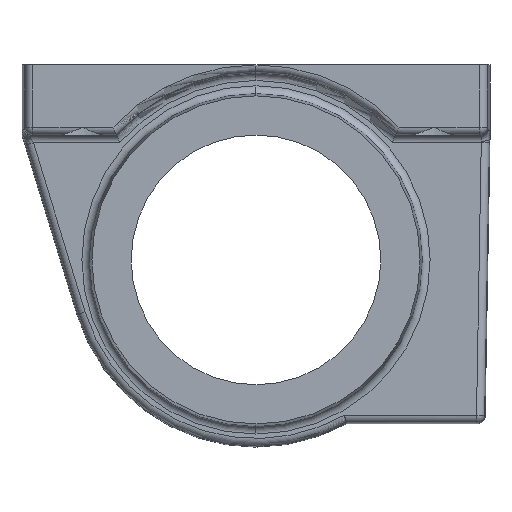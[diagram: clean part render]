
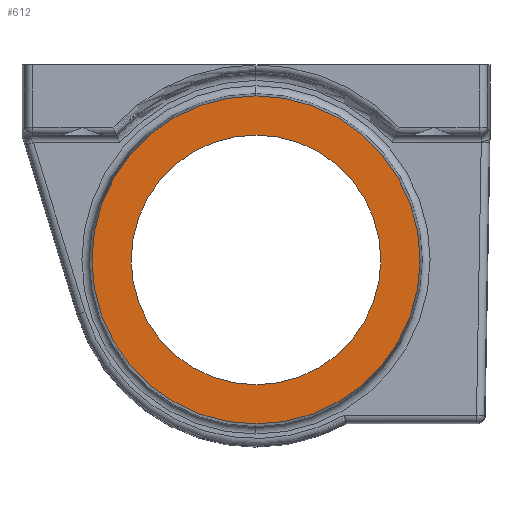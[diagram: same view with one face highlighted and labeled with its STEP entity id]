
A CAD part, front view. The second image highlights one B-rep face of the part: STEP entity #612.
In plain terms, the highlighted planar face has unit normal (0, -1, 0).
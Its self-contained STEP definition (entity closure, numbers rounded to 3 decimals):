
#10 = CIRCLE ( 'NONE', #638, 21.028 ) ;
#79 = VERTEX_POINT ( 'NONE', #357 ) ;
#273 = EDGE_LOOP ( 'NONE', ( #3204, #1922 ) ) ;
#294 = VERTEX_POINT ( 'NONE', #800 ) ;
#302 = EDGE_LOOP ( 'NONE', ( #1925, #1324 ) ) ;
#317 = AXIS2_PLACEMENT_3D ( 'NONE', #1532, #2412, #365 ) ;
#357 = CARTESIAN_POINT ( 'NONE',  ( 0., -14., -38. ) ) ;
#365 = DIRECTION ( 'NONE',  ( 0., 0., -1. ) ) ;
#444 = AXIS2_PLACEMENT_3D ( 'NONE', #3231, #547, #2933 ) ;
#547 = DIRECTION ( 'NONE',  ( 0., 1., 0. ) ) ;
#612 = ADVANCED_FACE ( 'NONE', ( #3257, #3202 ), #1443, .T. ) ;
#638 = AXIS2_PLACEMENT_3D ( 'NONE', #2739, #2499, #2764 ) ;
#800 = CARTESIAN_POINT ( 'NONE',  ( 0., -14., -6. ) ) ;
#1006 = CARTESIAN_POINT ( 'NONE',  ( 0., -14., -0.972 ) ) ;
#1039 = EDGE_CURVE ( 'NONE', #3246, #3701, #2573, .T. ) ;
#1084 = DIRECTION ( 'NONE',  ( 0., 1., 0. ) ) ;
#1212 = DIRECTION ( 'NONE',  ( 0., 0., -1. ) ) ;
#1242 = EDGE_CURVE ( 'NONE', #79, #294, #1333, .T. ) ;
#1304 = CARTESIAN_POINT ( 'NONE',  ( 0., -14., -43.028 ) ) ;
#1324 = ORIENTED_EDGE ( 'NONE', *, *, #1242, .T. ) ;
#1333 = CIRCLE ( 'NONE', #1954, 16. ) ;
#1443 = PLANE ( 'NONE',  #1507 ) ;
#1507 = AXIS2_PLACEMENT_3D ( 'NONE', #2904, #1716, #1212 ) ;
#1532 = CARTESIAN_POINT ( 'NONE',  ( 0., -14., -22. ) ) ;
#1716 = DIRECTION ( 'NONE',  ( 0., -1., 0. ) ) ;
#1922 = ORIENTED_EDGE ( 'NONE', *, *, #1039, .F. ) ;
#1923 = EDGE_CURVE ( 'NONE', #3701, #3246, #10, .T. ) ;
#1925 = ORIENTED_EDGE ( 'NONE', *, *, #2442, .T. ) ;
#1954 = AXIS2_PLACEMENT_3D ( 'NONE', #2224, #1084, #3416 ) ;
#2224 = CARTESIAN_POINT ( 'NONE',  ( 0., -14., -22. ) ) ;
#2412 = DIRECTION ( 'NONE',  ( 0., 1., 0. ) ) ;
#2442 = EDGE_CURVE ( 'NONE', #294, #79, #2626, .T. ) ;
#2499 = DIRECTION ( 'NONE',  ( 0., 1., 0. ) ) ;
#2573 = CIRCLE ( 'NONE', #444, 21.028 ) ;
#2626 = CIRCLE ( 'NONE', #317, 16. ) ;
#2739 = CARTESIAN_POINT ( 'NONE',  ( 0., -14., -22. ) ) ;
#2764 = DIRECTION ( 'NONE',  ( 0., 0., -1. ) ) ;
#2904 = CARTESIAN_POINT ( 'NONE',  ( 0., -14., -22. ) ) ;
#2933 = DIRECTION ( 'NONE',  ( 0., 0., -1. ) ) ;
#3202 = FACE_BOUND ( 'NONE', #302, .T. ) ;
#3204 = ORIENTED_EDGE ( 'NONE', *, *, #1923, .F. ) ;
#3231 = CARTESIAN_POINT ( 'NONE',  ( 0., -14., -22. ) ) ;
#3246 = VERTEX_POINT ( 'NONE', #1304 ) ;
#3257 = FACE_OUTER_BOUND ( 'NONE', #273, .T. ) ;
#3416 = DIRECTION ( 'NONE',  ( 0., 0., -1. ) ) ;
#3701 = VERTEX_POINT ( 'NONE', #1006 ) ;
